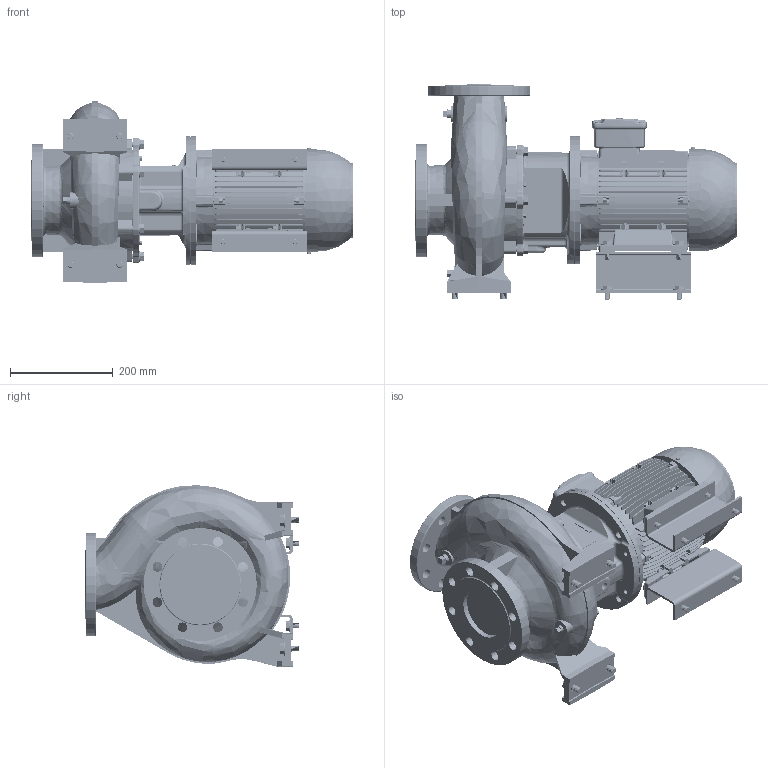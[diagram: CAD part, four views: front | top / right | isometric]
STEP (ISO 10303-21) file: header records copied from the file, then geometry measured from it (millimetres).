
FILE_DESCRIPTION (( 'STEP AP214' ), '1' );
FILE_NAME ('GSD4 80-160_2.2 & 3.0_(100L)_W21.STEP', '2026-07-01T02:10:40', ( '' ), ( '' ), 'SwSTEP 2.0', 'SolidWorks 2024', '' );
FILE_SCHEMA (( 'AUTOMOTIVE_DESIGN' ));
Length unit declared in the file: inch
Products named in the file (10): GSD4 80-160_2.2 & 3.0_(100L)_W21_BP.STEP; GSD4 80-160_2.2 & 3.0_(100L)_W21; 140 x 80 - 271472220.STEP; Parametric bolt_SFT-A299B.STEP; Parametric bolt_SFT-A253B.STEP; Parametric Flat Washer_M12.STEP; 80-160-100L_______.STEP; Parametric Flat Washer_M10.STEP; Parametric bolt_SFT-A249B.STEP; 100L ALIE3_W21T_B35.STEP
Assembly tree (29 placements, depth 3):
  GSD4 80-160_2.2 & 3.0_(100L)_W21
    GSD4 80-160_2.2 & 3.0_(100L)_W21_BP.STEP
      80-160-100L_______.STEP
      100L ALIE3_W21T_B35.STEP
      140 x 80 - 271472220.STEP  x2
      Parametric bolt_SFT-A299B.STEP  x4
      Parametric bolt_SFT-A253B.STEP  x4
      Parametric bolt_SFT-A249B.STEP  x4
      Parametric Flat Washer_M12.STEP  x4
      Parametric Flat Washer_M10.STEP  x8
Bounding box: 627.1 x 418 x 353.31 mm (x, y, z)
Volume: 21392555.6 mm3; surface area: 1570887.5 mm2
Topology: 31 solids, 31 shells, 4195 faces, 10942 edges, 7031 vertices
Faces by surface type: plane 2316, cylinder 1109, torus 317, bspline 250, cone 185, sphere 18
Entity records: 183305 total; most frequent: CARTESIAN_POINT 94733, ORIENTED_EDGE 19186, DIRECTION 17098, EDGE_CURVE 9593, VERTEX_POINT 6173, LINE 6034, VECTOR 6034, AXIS2_PLACEMENT_3D 5532
